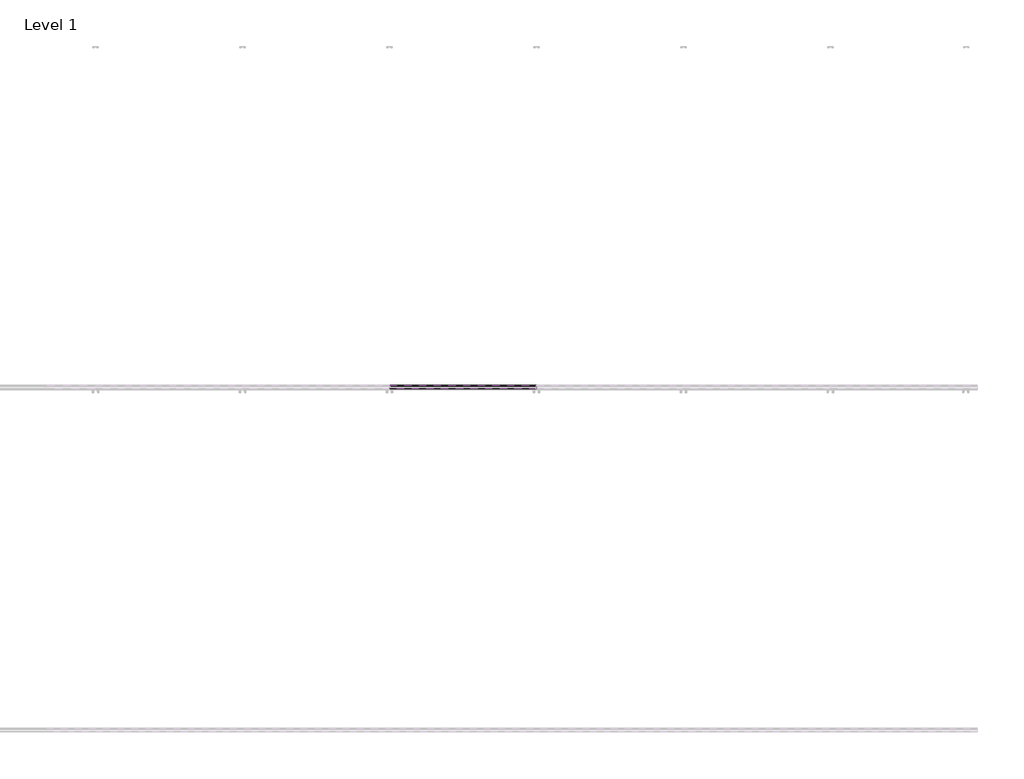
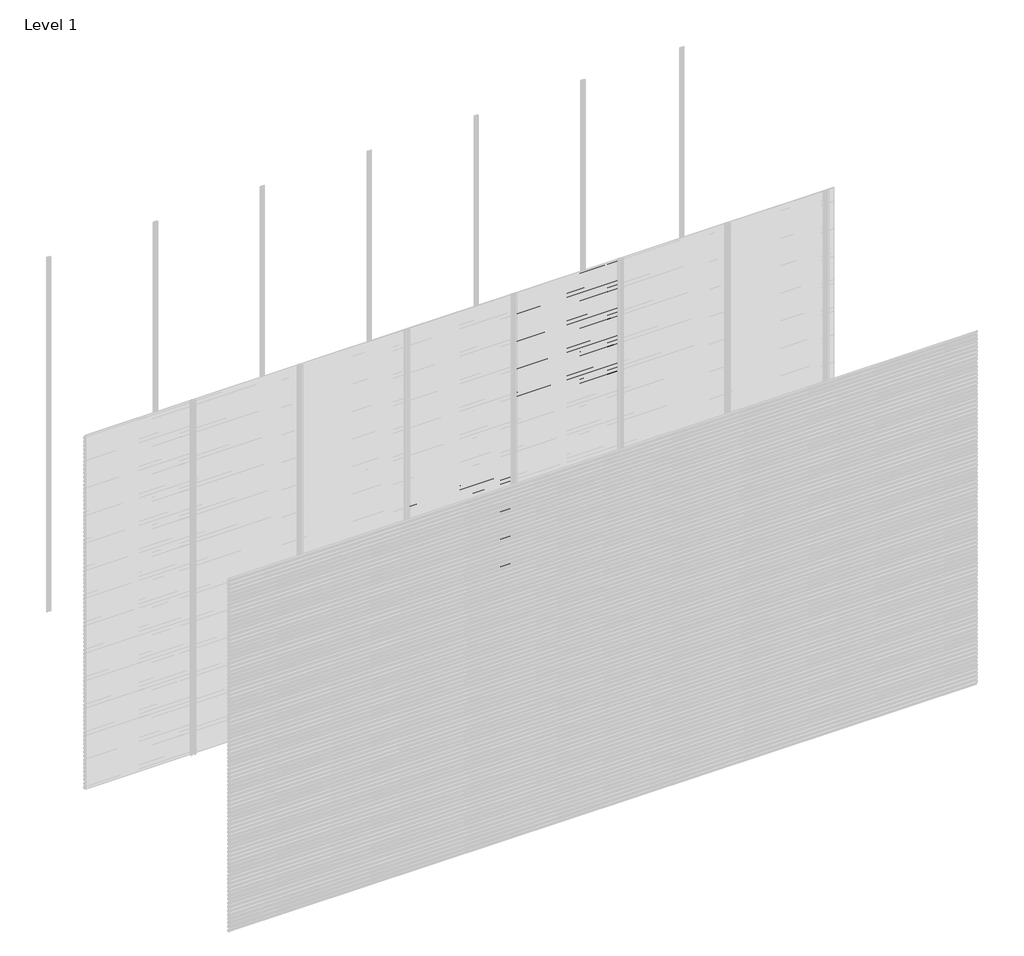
# One storey, part 84 of 96: 77 proxies.
"""IFC4 building model written with IfcOpenShell, lengths in millimetres."""

from ifc_helpers import new_model, si_unit, frame, origin, place, context, project, spatial, polyline, outline, extrude, element, save

model = new_model("IFC4")

# Units and contexts
model_context = context("Model", 3, world=origin())
ifc_project = project(units=[si_unit("LENGTHUNIT", "METRE", prefix="MILLI")], contexts=[model_context])

# Site, building, storey
site = spatial("IfcSite", under=ifc_project)
building = spatial("IfcBuilding", under=site)
storey = spatial("IfcBuildingStorey", under=building, Name="Level 1", Elevation=0.0)

# Proxies
placement = place(None, origin())
element("IfcBuildingElementProxy", 1, Name="Wall Sweeps", at=placement, inside=storey, context=model_context, shape_type="SweptSolid", body=[
    extrude(outline(polyline([(-5977.6, 1573.1655033), (-5977.6, 1558.8779188), (-5982.4114965, 1556.1), (-5982.4114965, 1557.3701706), (-5978.85, 1559.4264016), (-5978.85, 1572.4437382), (-5998.0, 1583.5000799), (-5998.0, 1598.4), (-5996.75, 1598.4), (-5996.75, 1584.2217609), (-5977.6, 1573.1655033)])), frame((2571.4285714, 0.0, 0.0), z_axis=(1.0, 0.0, 0.0), x_axis=(0.0, 1.0, 0.0)), (0.0, 0.0, 1.0), 857.1428571),
])
element("IfcBuildingElementProxy", 2, Name="Wall Sweeps", at=placement, inside=storey, context=model_context, shape_type="SweptSolid", body=[
    extrude(outline(polyline([(-5977.6, 1539.8655033), (-5977.6, 1525.5779188), (-5982.4114965, 1522.8), (-5982.4114965, 1524.0701706), (-5978.85, 1526.1264016), (-5978.85, 1539.1437382), (-5998.0, 1550.2000799), (-5998.0, 1565.1), (-5996.75, 1565.1), (-5996.75, 1550.9217609), (-5977.6, 1539.8655033)])), frame((2571.4285714, 0.0, 0.0), z_axis=(1.0, 0.0, 0.0), x_axis=(0.0, 1.0, 0.0)), (0.0, 0.0, 1.0), 857.1428571),
])
element("IfcBuildingElementProxy", 3, Name="Wall Sweeps", at=placement, inside=storey, context=model_context, shape_type="SweptSolid", body=[
    extrude(outline(polyline([(-5977.6, 1506.5655033), (-5977.6, 1492.2779188), (-5982.4114965, 1489.5), (-5982.4114965, 1490.7701706), (-5978.85, 1492.8264016), (-5978.85, 1505.8437382), (-5998.0, 1516.9000799), (-5998.0, 1531.8), (-5996.75, 1531.8), (-5996.75, 1517.6217609), (-5977.6, 1506.5655033)])), frame((2571.4285714, 0.0, 0.0), z_axis=(1.0, 0.0, 0.0), x_axis=(0.0, 1.0, 0.0)), (0.0, 0.0, 1.0), 857.1428571),
])
element("IfcBuildingElementProxy", 4, Name="Wall Sweeps", at=placement, inside=storey, context=model_context, shape_type="SweptSolid", body=[
    extrude(outline(polyline([(-5977.6, 1473.2655033), (-5977.6, 1458.9779188), (-5982.4114965, 1456.2), (-5982.4114965, 1457.4701706), (-5978.85, 1459.5264016), (-5978.85, 1472.5437382), (-5998.0, 1483.6000799), (-5998.0, 1498.5), (-5996.75, 1498.5), (-5996.75, 1484.3217609), (-5977.6, 1473.2655033)])), frame((2571.4285714, 0.0, 0.0), z_axis=(1.0, 0.0, 0.0), x_axis=(0.0, 1.0, 0.0)), (0.0, 0.0, 1.0), 857.1428571),
])
element("IfcBuildingElementProxy", 5, Name="Wall Sweeps", at=placement, inside=storey, context=model_context, shape_type="SweptSolid", body=[
    extrude(outline(polyline([(-5977.6, 1439.9655033), (-5977.6, 1425.6779188), (-5982.4114965, 1422.9), (-5982.4114965, 1424.1701706), (-5978.85, 1426.2264016), (-5978.85, 1439.2437382), (-5998.0, 1450.3000799), (-5998.0, 1465.2), (-5996.75, 1465.2), (-5996.75, 1451.0217609), (-5977.6, 1439.9655033)])), frame((2571.4285714, 0.0, 0.0), z_axis=(1.0, 0.0, 0.0), x_axis=(0.0, 1.0, 0.0)), (0.0, 0.0, 1.0), 857.1428571),
])
element("IfcBuildingElementProxy", 6, Name="Wall Sweeps", at=placement, inside=storey, context=model_context, shape_type="SweptSolid", body=[
    extrude(outline(polyline([(-5977.6, 1406.6655033), (-5977.6, 1392.3779188), (-5982.4114965, 1389.6), (-5982.4114965, 1390.8701706), (-5978.85, 1392.9264016), (-5978.85, 1405.9437382), (-5998.0, 1417.0000799), (-5998.0, 1431.9), (-5996.75, 1431.9), (-5996.75, 1417.7217609), (-5977.6, 1406.6655033)])), frame((2571.4285714, 0.0, 0.0), z_axis=(1.0, 0.0, 0.0), x_axis=(0.0, 1.0, 0.0)), (0.0, 0.0, 1.0), 857.1428571),
])
element("IfcBuildingElementProxy", 7, Name="Wall Sweeps", at=placement, inside=storey, context=model_context, shape_type="SweptSolid", body=[
    extrude(outline(polyline([(-5977.6, 1373.3655033), (-5977.6, 1359.0779188), (-5982.4114965, 1356.3), (-5982.4114965, 1357.5701706), (-5978.85, 1359.6264016), (-5978.85, 1372.6437382), (-5998.0, 1383.7000799), (-5998.0, 1398.6), (-5996.75, 1398.6), (-5996.75, 1384.4217609), (-5977.6, 1373.3655033)])), frame((2571.4285714, 0.0, 0.0), z_axis=(1.0, 0.0, 0.0), x_axis=(0.0, 1.0, 0.0)), (0.0, 0.0, 1.0), 857.1428571),
])
element("IfcBuildingElementProxy", 8, Name="Wall Sweeps", at=placement, inside=storey, context=model_context, shape_type="SweptSolid", body=[
    extrude(outline(polyline([(-5977.6, 1340.0655033), (-5977.6, 1325.7779188), (-5982.4114965, 1323.0), (-5982.4114965, 1324.2701706), (-5978.85, 1326.3264016), (-5978.85, 1339.3437382), (-5998.0, 1350.4000799), (-5998.0, 1365.3), (-5996.75, 1365.3), (-5996.75, 1351.1217609), (-5977.6, 1340.0655033)])), frame((2571.4285714, 0.0, 0.0), z_axis=(1.0, 0.0, 0.0), x_axis=(0.0, 1.0, 0.0)), (0.0, 0.0, 1.0), 857.1428571),
])
element("IfcBuildingElementProxy", 9, Name="Wall Sweeps", at=placement, inside=storey, context=model_context, shape_type="SweptSolid", body=[
    extrude(outline(polyline([(-5977.6, 1306.7655033), (-5977.6, 1292.4779188), (-5982.4114965, 1289.7), (-5982.4114965, 1290.9701706), (-5978.85, 1293.0264016), (-5978.85, 1306.0437382), (-5998.0, 1317.1000799), (-5998.0, 1332.0), (-5996.75, 1332.0), (-5996.75, 1317.8217609), (-5977.6, 1306.7655033)])), frame((2571.4285714, 0.0, 0.0), z_axis=(1.0, 0.0, 0.0), x_axis=(0.0, 1.0, 0.0)), (0.0, 0.0, 1.0), 857.1428571),
])
element("IfcBuildingElementProxy", 10, Name="Wall Sweeps", at=placement, inside=storey, context=model_context, shape_type="SweptSolid", body=[
    extrude(outline(polyline([(-5977.6, 1273.4655033), (-5977.6, 1259.1779188), (-5982.4114965, 1256.4), (-5982.4114965, 1257.6701706), (-5978.85, 1259.7264016), (-5978.85, 1272.7437382), (-5998.0, 1283.8000799), (-5998.0, 1298.7), (-5996.75, 1298.7), (-5996.75, 1284.5217609), (-5977.6, 1273.4655033)])), frame((2571.4285714, 0.0, 0.0), z_axis=(1.0, 0.0, 0.0), x_axis=(0.0, 1.0, 0.0)), (0.0, 0.0, 1.0), 857.1428571),
])
element("IfcBuildingElementProxy", 11, Name="Wall Sweeps", at=placement, inside=storey, context=model_context, shape_type="SweptSolid", body=[
    extrude(outline(polyline([(-5977.6, 1240.1655033), (-5977.6, 1225.8779188), (-5982.4114965, 1223.1), (-5982.4114965, 1224.3701706), (-5978.85, 1226.4264016), (-5978.85, 1239.4437382), (-5998.0, 1250.5000799), (-5998.0, 1265.4), (-5996.75, 1265.4), (-5996.75, 1251.2217609), (-5977.6, 1240.1655033)])), frame((2571.4285714, 0.0, 0.0), z_axis=(1.0, 0.0, 0.0), x_axis=(0.0, 1.0, 0.0)), (0.0, 0.0, 1.0), 857.1428571),
])
element("IfcBuildingElementProxy", 12, Name="Wall Sweeps", at=placement, inside=storey, context=model_context, shape_type="SweptSolid", body=[
    extrude(outline(polyline([(-5977.6, 1206.8655033), (-5977.6, 1192.5779188), (-5982.4114965, 1189.8), (-5982.4114965, 1191.0701706), (-5978.85, 1193.1264016), (-5978.85, 1206.1437382), (-5998.0, 1217.2000799), (-5998.0, 1232.1), (-5996.75, 1232.1), (-5996.75, 1217.9217609), (-5977.6, 1206.8655033)])), frame((2571.4285714, 0.0, 0.0), z_axis=(1.0, 0.0, 0.0), x_axis=(0.0, 1.0, 0.0)), (0.0, 0.0, 1.0), 857.1428571),
])
element("IfcBuildingElementProxy", 13, Name="Wall Sweeps", at=placement, inside=storey, context=model_context, shape_type="SweptSolid", body=[
    extrude(outline(polyline([(-5977.6, 1173.5655033), (-5977.6, 1159.2779188), (-5982.4114965, 1156.5), (-5982.4114965, 1157.7701706), (-5978.85, 1159.8264016), (-5978.85, 1172.8437382), (-5998.0, 1183.9000799), (-5998.0, 1198.8), (-5996.75, 1198.8), (-5996.75, 1184.6217609), (-5977.6, 1173.5655033)])), frame((2571.4285714, 0.0, 0.0), z_axis=(1.0, 0.0, 0.0), x_axis=(0.0, 1.0, 0.0)), (0.0, 0.0, 1.0), 857.1428571),
])
element("IfcBuildingElementProxy", 14, Name="Wall Sweeps", at=placement, inside=storey, context=model_context, shape_type="SweptSolid", body=[
    extrude(outline(polyline([(-5977.6, 1140.2655033), (-5977.6, 1125.9779188), (-5982.4114965, 1123.2), (-5982.4114965, 1124.4701706), (-5978.85, 1126.5264016), (-5978.85, 1139.5437382), (-5998.0, 1150.6000799), (-5998.0, 1165.5), (-5996.75, 1165.5), (-5996.75, 1151.3217609), (-5977.6, 1140.2655033)])), frame((2571.4285714, 0.0, 0.0), z_axis=(1.0, 0.0, 0.0), x_axis=(0.0, 1.0, 0.0)), (0.0, 0.0, 1.0), 857.1428571),
])
element("IfcBuildingElementProxy", 15, Name="Wall Sweeps", at=placement, inside=storey, context=model_context, shape_type="SweptSolid", body=[
    extrude(outline(polyline([(-5977.6, 1106.9655033), (-5977.6, 1092.6779188), (-5982.4114965, 1089.9), (-5982.4114965, 1091.1701706), (-5978.85, 1093.2264016), (-5978.85, 1106.2437382), (-5998.0, 1117.3000799), (-5998.0, 1132.2), (-5996.75, 1132.2), (-5996.75, 1118.0217609), (-5977.6, 1106.9655033)])), frame((2571.4285714, 0.0, 0.0), z_axis=(1.0, 0.0, 0.0), x_axis=(0.0, 1.0, 0.0)), (0.0, 0.0, 1.0), 857.1428571),
])
element("IfcBuildingElementProxy", 16, Name="Wall Sweeps", at=placement, inside=storey, context=model_context, shape_type="SweptSolid", body=[
    extrude(outline(polyline([(-5977.6, 1073.6655033), (-5977.6, 1059.3779188), (-5982.4114965, 1056.6), (-5982.4114965, 1057.8701706), (-5978.85, 1059.9264016), (-5978.85, 1072.9437382), (-5998.0, 1084.0000799), (-5998.0, 1098.9), (-5996.75, 1098.9), (-5996.75, 1084.7217609), (-5977.6, 1073.6655033)])), frame((2571.4285714, 0.0, 0.0), z_axis=(1.0, 0.0, 0.0), x_axis=(0.0, 1.0, 0.0)), (0.0, 0.0, 1.0), 857.1428571),
])
element("IfcBuildingElementProxy", 17, Name="Wall Sweeps", at=placement, inside=storey, context=model_context, shape_type="SweptSolid", body=[
    extrude(outline(polyline([(-5977.6, 1040.3655033), (-5977.6, 1026.0779188), (-5982.4114965, 1023.3), (-5982.4114965, 1024.5701706), (-5978.85, 1026.6264016), (-5978.85, 1039.6437382), (-5998.0, 1050.7000799), (-5998.0, 1065.6), (-5996.75, 1065.6), (-5996.75, 1051.4217609), (-5977.6, 1040.3655033)])), frame((2571.4285714, 0.0, 0.0), z_axis=(1.0, 0.0, 0.0), x_axis=(0.0, 1.0, 0.0)), (0.0, 0.0, 1.0), 857.1428571),
])
element("IfcBuildingElementProxy", 18, Name="Wall Sweeps", at=placement, inside=storey, context=model_context, shape_type="SweptSolid", body=[
    extrude(outline(polyline([(-5977.6, 1007.0655033), (-5977.6, 992.7779188), (-5982.4114965, 990.0), (-5982.4114965, 991.2701706), (-5978.85, 993.3264016), (-5978.85, 1006.3437382), (-5998.0, 1017.4000799), (-5998.0, 1032.3), (-5996.75, 1032.3), (-5996.75, 1018.1217609), (-5977.6, 1007.0655033)])), frame((2571.4285714, 0.0, 0.0), z_axis=(1.0, 0.0, 0.0), x_axis=(0.0, 1.0, 0.0)), (0.0, 0.0, 1.0), 857.1428571),
])
element("IfcBuildingElementProxy", 19, Name="Wall Sweeps", at=placement, inside=storey, context=model_context, shape_type="SweptSolid", body=[
    extrude(outline(polyline([(-5977.6, 973.7655033), (-5977.6, 959.4779188), (-5982.4114965, 956.7), (-5982.4114965, 957.9701706), (-5978.85, 960.0264016), (-5978.85, 973.0437382), (-5998.0, 984.1000799), (-5998.0, 999.0), (-5996.75, 999.0), (-5996.75, 984.8217609), (-5977.6, 973.7655033)])), frame((2571.4285714, 0.0, 0.0), z_axis=(1.0, 0.0, 0.0), x_axis=(0.0, 1.0, 0.0)), (0.0, 0.0, 1.0), 857.1428571),
])
element("IfcBuildingElementProxy", 20, Name="Wall Sweeps", at=placement, inside=storey, context=model_context, shape_type="SweptSolid", body=[
    extrude(outline(polyline([(-5977.6, 940.4655033), (-5977.6, 926.1779188), (-5982.4114965, 923.4), (-5982.4114965, 924.6701706), (-5978.85, 926.7264016), (-5978.85, 939.7437382), (-5998.0, 950.8000799), (-5998.0, 965.7), (-5996.75, 965.7), (-5996.75, 951.5217609), (-5977.6, 940.4655033)])), frame((2571.4285714, 0.0, 0.0), z_axis=(1.0, 0.0, 0.0), x_axis=(0.0, 1.0, 0.0)), (0.0, 0.0, 1.0), 857.1428571),
])
element("IfcBuildingElementProxy", 21, Name="Wall Sweeps", at=placement, inside=storey, context=model_context, shape_type="SweptSolid", body=[
    extrude(outline(polyline([(-5977.6, 907.1655033), (-5977.6, 892.8779188), (-5982.4114965, 890.1), (-5982.4114965, 891.3701706), (-5978.85, 893.4264016), (-5978.85, 906.4437382), (-5998.0, 917.5000799), (-5998.0, 932.4), (-5996.75, 932.4), (-5996.75, 918.2217609), (-5977.6, 907.1655033)])), frame((2571.4285714, 0.0, 0.0), z_axis=(1.0, 0.0, 0.0), x_axis=(0.0, 1.0, 0.0)), (0.0, 0.0, 1.0), 857.1428571),
])
element("IfcBuildingElementProxy", 22, Name="Wall Sweeps", at=placement, inside=storey, context=model_context, shape_type="SweptSolid", body=[
    extrude(outline(polyline([(-5977.6, 873.8655033), (-5977.6, 859.5779188), (-5982.4114965, 856.8), (-5982.4114965, 858.0701706), (-5978.85, 860.1264016), (-5978.85, 873.1437382), (-5998.0, 884.2000799), (-5998.0, 899.1), (-5996.75, 899.1), (-5996.75, 884.9217609), (-5977.6, 873.8655033)])), frame((2571.4285714, 0.0, 0.0), z_axis=(1.0, 0.0, 0.0), x_axis=(0.0, 1.0, 0.0)), (0.0, 0.0, 1.0), 857.1428571),
])
element("IfcBuildingElementProxy", 23, Name="Wall Sweeps", at=placement, inside=storey, context=model_context, shape_type="SweptSolid", body=[
    extrude(outline(polyline([(-5977.6, 840.5655033), (-5977.6, 826.2779188), (-5982.4114965, 823.5), (-5982.4114965, 824.7701706), (-5978.85, 826.8264016), (-5978.85, 839.8437382), (-5998.0, 850.9000799), (-5998.0, 865.8), (-5996.75, 865.8), (-5996.75, 851.6217609), (-5977.6, 840.5655033)])), frame((2571.4285714, 0.0, 0.0), z_axis=(1.0, 0.0, 0.0), x_axis=(0.0, 1.0, 0.0)), (0.0, 0.0, 1.0), 857.1428571),
])
element("IfcBuildingElementProxy", 24, Name="Wall Sweeps", at=placement, inside=storey, context=model_context, shape_type="SweptSolid", body=[
    extrude(outline(polyline([(-5977.6, 807.2655033), (-5977.6, 792.9779188), (-5982.4114965, 790.2), (-5982.4114965, 791.4701706), (-5978.85, 793.5264016), (-5978.85, 806.5437382), (-5998.0, 817.6000799), (-5998.0, 832.5), (-5996.75, 832.5), (-5996.75, 818.3217609), (-5977.6, 807.2655033)])), frame((2571.4285714, 0.0, 0.0), z_axis=(1.0, 0.0, 0.0), x_axis=(0.0, 1.0, 0.0)), (0.0, 0.0, 1.0), 857.1428571),
])
element("IfcBuildingElementProxy", 25, Name="Wall Sweeps", at=placement, inside=storey, context=model_context, shape_type="SweptSolid", body=[
    extrude(outline(polyline([(-5977.6, 773.9655033), (-5977.6, 759.6779188), (-5982.4114965, 756.9), (-5982.4114965, 758.1701706), (-5978.85, 760.2264016), (-5978.85, 773.2437382), (-5998.0, 784.3000799), (-5998.0, 799.2), (-5996.75, 799.2), (-5996.75, 785.0217609), (-5977.6, 773.9655033)])), frame((2571.4285714, 0.0, 0.0), z_axis=(1.0, 0.0, 0.0), x_axis=(0.0, 1.0, 0.0)), (0.0, 0.0, 1.0), 857.1428571),
])
element("IfcBuildingElementProxy", 26, Name="Wall Sweeps", at=placement, inside=storey, context=model_context, shape_type="SweptSolid", body=[
    extrude(outline(polyline([(-5977.6, 740.6655033), (-5977.6, 726.3779188), (-5982.4114965, 723.6), (-5982.4114965, 724.8701706), (-5978.85, 726.9264016), (-5978.85, 739.9437382), (-5998.0, 751.0000799), (-5998.0, 765.9), (-5996.75, 765.9), (-5996.75, 751.7217609), (-5977.6, 740.6655033)])), frame((2571.4285714, 0.0, 0.0), z_axis=(1.0, 0.0, 0.0), x_axis=(0.0, 1.0, 0.0)), (0.0, 0.0, 1.0), 857.1428571),
])
element("IfcBuildingElementProxy", 27, Name="Wall Sweeps", at=placement, inside=storey, context=model_context, shape_type="SweptSolid", body=[
    extrude(outline(polyline([(-5977.6, 707.3655033), (-5977.6, 693.0779188), (-5982.4114965, 690.3), (-5982.4114965, 691.5701706), (-5978.85, 693.6264016), (-5978.85, 706.6437382), (-5998.0, 717.7000799), (-5998.0, 732.6), (-5996.75, 732.6), (-5996.75, 718.4217609), (-5977.6, 707.3655033)])), frame((2571.4285714, 0.0, 0.0), z_axis=(1.0, 0.0, 0.0), x_axis=(0.0, 1.0, 0.0)), (0.0, 0.0, 1.0), 857.1428571),
])
element("IfcBuildingElementProxy", 28, Name="Wall Sweeps", at=placement, inside=storey, context=model_context, shape_type="SweptSolid", body=[
    extrude(outline(polyline([(-5977.6, 674.0655033), (-5977.6, 659.7779188), (-5982.4114965, 657.0), (-5982.4114965, 658.2701706), (-5978.85, 660.3264016), (-5978.85, 673.3437382), (-5998.0, 684.4000799), (-5998.0, 699.3), (-5996.75, 699.3), (-5996.75, 685.1217609), (-5977.6, 674.0655033)])), frame((2571.4285714, 0.0, 0.0), z_axis=(1.0, 0.0, 0.0), x_axis=(0.0, 1.0, 0.0)), (0.0, 0.0, 1.0), 857.1428571),
])
element("IfcBuildingElementProxy", 29, Name="Wall Sweeps", at=placement, inside=storey, context=model_context, shape_type="SweptSolid", body=[
    extrude(outline(polyline([(-5977.6, 640.7655033), (-5977.6, 626.4779188), (-5982.4114965, 623.7), (-5982.4114965, 624.9701706), (-5978.85, 627.0264016), (-5978.85, 640.0437382), (-5998.0, 651.1000799), (-5998.0, 666.0), (-5996.75, 666.0), (-5996.75, 651.8217609), (-5977.6, 640.7655033)])), frame((2571.4285714, 0.0, 0.0), z_axis=(1.0, 0.0, 0.0), x_axis=(0.0, 1.0, 0.0)), (0.0, 0.0, 1.0), 857.1428571),
])
element("IfcBuildingElementProxy", 30, Name="Wall Sweeps", at=placement, inside=storey, context=model_context, shape_type="SweptSolid", body=[
    extrude(outline(polyline([(-5977.6, 607.4655033), (-5977.6, 593.1779188), (-5982.4114965, 590.4), (-5982.4114965, 591.6701706), (-5978.85, 593.7264016), (-5978.85, 606.7437382), (-5998.0, 617.8000799), (-5998.0, 632.7), (-5996.75, 632.7), (-5996.75, 618.5217609), (-5977.6, 607.4655033)])), frame((2571.4285714, 0.0, 0.0), z_axis=(1.0, 0.0, 0.0), x_axis=(0.0, 1.0, 0.0)), (0.0, 0.0, 1.0), 857.1428571),
])
element("IfcBuildingElementProxy", 31, Name="Wall Sweeps", at=placement, inside=storey, context=model_context, shape_type="SweptSolid", body=[
    extrude(outline(polyline([(-5977.6, 574.1655033), (-5977.6, 559.8779188), (-5982.4114965, 557.1), (-5982.4114965, 558.3701706), (-5978.85, 560.4264016), (-5978.85, 573.4437382), (-5998.0, 584.5000799), (-5998.0, 599.4), (-5996.75, 599.4), (-5996.75, 585.2217609), (-5977.6, 574.1655033)])), frame((2571.4285714, 0.0, 0.0), z_axis=(1.0, 0.0, 0.0), x_axis=(0.0, 1.0, 0.0)), (0.0, 0.0, 1.0), 857.1428571),
])
element("IfcBuildingElementProxy", 32, Name="Wall Sweeps", at=placement, inside=storey, context=model_context, shape_type="SweptSolid", body=[
    extrude(outline(polyline([(-5977.6, 540.8655033), (-5977.6, 526.5779188), (-5982.4114965, 523.8), (-5982.4114965, 525.0701706), (-5978.85, 527.1264016), (-5978.85, 540.1437382), (-5998.0, 551.2000799), (-5998.0, 566.1), (-5996.75, 566.1), (-5996.75, 551.9217609), (-5977.6, 540.8655033)])), frame((2571.4285714, 0.0, 0.0), z_axis=(1.0, 0.0, 0.0), x_axis=(0.0, 1.0, 0.0)), (0.0, 0.0, 1.0), 857.1428571),
])
element("IfcBuildingElementProxy", 33, Name="Wall Sweeps", at=placement, inside=storey, context=model_context, shape_type="SweptSolid", body=[
    extrude(outline(polyline([(-5977.6, 507.5655033), (-5977.6, 493.2779188), (-5982.4114965, 490.5), (-5982.4114965, 491.7701706), (-5978.85, 493.8264016), (-5978.85, 506.8437382), (-5998.0, 517.9000799), (-5998.0, 532.8), (-5996.75, 532.8), (-5996.75, 518.6217609), (-5977.6, 507.5655033)])), frame((2571.4285714, 0.0, 0.0), z_axis=(1.0, 0.0, 0.0), x_axis=(0.0, 1.0, 0.0)), (0.0, 0.0, 1.0), 857.1428571),
])
element("IfcBuildingElementProxy", 34, Name="Wall Sweeps", at=placement, inside=storey, context=model_context, shape_type="SweptSolid", body=[
    extrude(outline(polyline([(-5977.6, 474.2655033), (-5977.6, 459.9779188), (-5982.4114965, 457.2), (-5982.4114965, 458.4701706), (-5978.85, 460.5264016), (-5978.85, 473.5437382), (-5998.0, 484.6000799), (-5998.0, 499.5), (-5996.75, 499.5), (-5996.75, 485.3217609), (-5977.6, 474.2655033)])), frame((2571.4285714, 0.0, 0.0), z_axis=(1.0, 0.0, 0.0), x_axis=(0.0, 1.0, 0.0)), (0.0, 0.0, 1.0), 857.1428571),
])
element("IfcBuildingElementProxy", 35, Name="Wall Sweeps", at=placement, inside=storey, context=model_context, shape_type="SweptSolid", body=[
    extrude(outline(polyline([(-5977.6, 440.9655033), (-5977.6, 426.6779188), (-5982.4114965, 423.9), (-5982.4114965, 425.1701706), (-5978.85, 427.2264016), (-5978.85, 440.2437382), (-5998.0, 451.3000799), (-5998.0, 466.2), (-5996.75, 466.2), (-5996.75, 452.0217609), (-5977.6, 440.9655033)])), frame((2571.4285714, 0.0, 0.0), z_axis=(1.0, 0.0, 0.0), x_axis=(0.0, 1.0, 0.0)), (0.0, 0.0, 1.0), 857.1428571),
])
element("IfcBuildingElementProxy", 36, Name="Wall Sweeps", at=placement, inside=storey, context=model_context, shape_type="SweptSolid", body=[
    extrude(outline(polyline([(-5977.6, 407.6655033), (-5977.6, 393.3779188), (-5982.4114965, 390.6), (-5982.4114965, 391.8701706), (-5978.85, 393.9264016), (-5978.85, 406.9437382), (-5998.0, 418.0000799), (-5998.0, 432.9), (-5996.75, 432.9), (-5996.75, 418.7217609), (-5977.6, 407.6655033)])), frame((2571.4285714, 0.0, 0.0), z_axis=(1.0, 0.0, 0.0), x_axis=(0.0, 1.0, 0.0)), (0.0, 0.0, 1.0), 857.1428571),
])
element("IfcBuildingElementProxy", 37, Name="Wall Sweeps", at=placement, inside=storey, context=model_context, shape_type="SweptSolid", body=[
    extrude(outline(polyline([(-5977.6, 374.3655033), (-5977.6, 360.0779188), (-5982.4114965, 357.3), (-5982.4114965, 358.5701706), (-5978.85, 360.6264016), (-5978.85, 373.6437382), (-5998.0, 384.7000799), (-5998.0, 399.6), (-5996.75, 399.6), (-5996.75, 385.4217609), (-5977.6, 374.3655033)])), frame((2571.4285714, 0.0, 0.0), z_axis=(1.0, 0.0, 0.0), x_axis=(0.0, 1.0, 0.0)), (0.0, 0.0, 1.0), 857.1428571),
])
element("IfcBuildingElementProxy", 38, Name="Wall Sweeps", at=placement, inside=storey, context=model_context, shape_type="SweptSolid", body=[
    extrude(outline(polyline([(-5977.6, 341.0655033), (-5977.6, 326.7779188), (-5982.4114965, 324.0), (-5982.4114965, 325.2701706), (-5978.85, 327.3264016), (-5978.85, 340.3437382), (-5998.0, 351.4000799), (-5998.0, 366.3), (-5996.75, 366.3), (-5996.75, 352.1217609), (-5977.6, 341.0655033)])), frame((2571.4285714, 0.0, 0.0), z_axis=(1.0, 0.0, 0.0), x_axis=(0.0, 1.0, 0.0)), (0.0, 0.0, 1.0), 857.1428571),
])
element("IfcBuildingElementProxy", 39, Name="Wall Sweeps", at=placement, inside=storey, context=model_context, shape_type="SweptSolid", body=[
    extrude(outline(polyline([(-5977.6, 307.7655033), (-5977.6, 293.4779188), (-5982.4114965, 290.7), (-5982.4114965, 291.9701706), (-5978.85, 294.0264016), (-5978.85, 307.0437382), (-5998.0, 318.1000799), (-5998.0, 333.0), (-5996.75, 333.0), (-5996.75, 318.8217609), (-5977.6, 307.7655033)])), frame((2571.4285714, 0.0, 0.0), z_axis=(1.0, 0.0, 0.0), x_axis=(0.0, 1.0, 0.0)), (0.0, 0.0, 1.0), 857.1428571),
])
element("IfcBuildingElementProxy", 40, Name="Wall Sweeps", at=placement, inside=storey, context=model_context, shape_type="SweptSolid", body=[
    extrude(outline(polyline([(-5977.6, 274.4655033), (-5977.6, 260.1779188), (-5982.4114965, 257.4), (-5982.4114965, 258.6701706), (-5978.85, 260.7264016), (-5978.85, 273.7437382), (-5998.0, 284.8000799), (-5998.0, 299.7), (-5996.75, 299.7), (-5996.75, 285.5217609), (-5977.6, 274.4655033)])), frame((2571.4285714, 0.0, 0.0), z_axis=(1.0, 0.0, 0.0), x_axis=(0.0, 1.0, 0.0)), (0.0, 0.0, 1.0), 857.1428571),
])
element("IfcBuildingElementProxy", 41, Name="Wall Sweeps", at=placement, inside=storey, context=model_context, shape_type="SweptSolid", body=[
    extrude(outline(polyline([(-5977.6, 241.1655033), (-5977.6, 226.8779188), (-5982.4114965, 224.1), (-5982.4114965, 225.3701706), (-5978.85, 227.4264016), (-5978.85, 240.4437382), (-5998.0, 251.5000799), (-5998.0, 266.4), (-5996.75, 266.4), (-5996.75, 252.2217609), (-5977.6, 241.1655033)])), frame((2571.4285714, 0.0, 0.0), z_axis=(1.0, 0.0, 0.0), x_axis=(0.0, 1.0, 0.0)), (0.0, 0.0, 1.0), 857.1428571),
])
element("IfcBuildingElementProxy", 42, Name="Wall Sweeps", at=placement, inside=storey, context=model_context, shape_type="SweptSolid", body=[
    extrude(outline(polyline([(-5977.6, 207.8655033), (-5977.6, 193.5779188), (-5982.4114965, 190.8), (-5982.4114965, 192.0701706), (-5978.85, 194.1264016), (-5978.85, 207.1437382), (-5998.0, 218.2000799), (-5998.0, 233.1), (-5996.75, 233.1), (-5996.75, 218.9217609), (-5977.6, 207.8655033)])), frame((2571.4285714, 0.0, 0.0), z_axis=(1.0, 0.0, 0.0), x_axis=(0.0, 1.0, 0.0)), (0.0, 0.0, 1.0), 857.1428571),
])
element("IfcBuildingElementProxy", 43, Name="Wall Sweeps", at=placement, inside=storey, context=model_context, shape_type="SweptSolid", body=[
    extrude(outline(polyline([(-5977.6, 174.5655033), (-5977.6, 160.2779188), (-5982.4114965, 157.5), (-5982.4114965, 158.7701706), (-5978.85, 160.8264016), (-5978.85, 173.8437382), (-5998.0, 184.9000799), (-5998.0, 199.8), (-5996.75, 199.8), (-5996.75, 185.6217609), (-5977.6, 174.5655033)])), frame((2571.4285714, 0.0, 0.0), z_axis=(1.0, 0.0, 0.0), x_axis=(0.0, 1.0, 0.0)), (0.0, 0.0, 1.0), 857.1428571),
])
element("IfcBuildingElementProxy", 44, Name="Wall Sweeps", at=placement, inside=storey, context=model_context, shape_type="SweptSolid", body=[
    extrude(outline(polyline([(-5977.6, 141.2655033), (-5977.6, 126.9779188), (-5982.4114965, 124.2), (-5982.4114965, 125.4701706), (-5978.85, 127.5264016), (-5978.85, 140.5437382), (-5998.0, 151.6000799), (-5998.0, 166.5), (-5996.75, 166.5), (-5996.75, 152.3217609), (-5977.6, 141.2655033)])), frame((2571.4285714, 0.0, 0.0), z_axis=(1.0, 0.0, 0.0), x_axis=(0.0, 1.0, 0.0)), (0.0, 0.0, 1.0), 857.1428571),
])
element("IfcBuildingElementProxy", 45, Name="Wall Sweeps", at=placement, inside=storey, context=model_context, shape_type="SweptSolid", body=[
    extrude(outline(polyline([(-5977.6, 107.9655033), (-5977.6, 93.6779188), (-5982.4114965, 90.9), (-5982.4114965, 92.1701706), (-5978.85, 94.2264016), (-5978.85, 107.2437382), (-5998.0, 118.3000799), (-5998.0, 133.2), (-5996.75, 133.2), (-5996.75, 119.0217609), (-5977.6, 107.9655033)])), frame((2571.4285714, 0.0, 0.0), z_axis=(1.0, 0.0, 0.0), x_axis=(0.0, 1.0, 0.0)), (0.0, 0.0, 1.0), 857.1428571),
])
element("IfcBuildingElementProxy", 46, Name="Wall Sweeps", at=placement, inside=storey, context=model_context, shape_type="SweptSolid", body=[
    extrude(outline(polyline([(-5977.6, 74.6655033), (-5977.6, 60.3779188), (-5982.4114965, 57.6), (-5982.4114965, 58.8701706), (-5978.85, 60.9264016), (-5978.85, 73.9437382), (-5998.0, 85.0000799), (-5998.0, 99.9), (-5996.75, 99.9), (-5996.75, 85.7217609), (-5977.6, 74.6655033)])), frame((2571.4285714, 0.0, 0.0), z_axis=(1.0, 0.0, 0.0), x_axis=(0.0, 1.0, 0.0)), (0.0, 0.0, 1.0), 857.1428571),
])
element("IfcBuildingElementProxy", 47, Name="Wall Sweeps", at=placement, inside=storey, context=model_context, shape_type="SweptSolid", body=[
    extrude(outline(polyline([(-5977.6, 41.3655033), (-5977.6, 27.0779188), (-5982.4114965, 24.3), (-5982.4114965, 25.5701706), (-5978.85, 27.6264016), (-5978.85, 40.6437382), (-5998.0, 51.7000799), (-5998.0, 66.6), (-5996.75, 66.6), (-5996.75, 52.4217609), (-5977.6, 41.3655033)])), frame((2571.4285714, 0.0, 0.0), z_axis=(1.0, 0.0, 0.0), x_axis=(0.0, 1.0, 0.0)), (0.0, 0.0, 1.0), 857.1428571),
])
element("IfcBuildingElementProxy", 48, Name="Wall Sweeps", at=placement, inside=storey, context=model_context, shape_type="SweptSolid", body=[
    extrude(outline(polyline([(-5977.6, 8.0655033), (-5977.6, -6.2220812), (-5982.4114965, -9.0), (-5982.4114965, -7.7298294), (-5978.85, -5.6735984), (-5978.85, 7.3437382), (-5998.0, 18.4000799), (-5998.0, 33.3), (-5996.75, 33.3), (-5996.75, 19.1217609), (-5977.6, 8.0655033)])), frame((2571.4285714, 0.0, 0.0), z_axis=(1.0, 0.0, 0.0), x_axis=(0.0, 1.0, 0.0)), (0.0, 0.0, 1.0), 857.1428571),
])
element("IfcBuildingElementProxy", 49, Name="Wall Sweeps", at=placement, inside=storey, context=model_context, shape_type="SweptSolid", body=[
    extrude(outline(polyline([(-5977.6, 2971.7655033), (-5977.6, 2957.4779188), (-5982.4114965, 2954.7), (-5982.4114965, 2955.9701706), (-5978.85, 2958.0264016), (-5978.85, 2971.0437382), (-5998.0, 2982.1000799), (-5998.0, 2997.0), (-5996.75, 2997.0), (-5996.75, 2982.8217609), (-5977.6, 2971.7655033)])), frame((3428.5714286, 0.0, 0.0), z_axis=(1.0, 0.0, 0.0), x_axis=(0.0, 1.0, 0.0)), (0.0, 0.0, 1.0), 857.1428571),
])
element("IfcBuildingElementProxy", 50, Name="Wall Sweeps", at=placement, inside=storey, context=model_context, shape_type="SweptSolid", body=[
    extrude(outline(polyline([(-5977.6, 2938.4655033), (-5977.6, 2924.1779188), (-5982.4114965, 2921.4), (-5982.4114965, 2922.6701706), (-5978.85, 2924.7264016), (-5978.85, 2937.7437382), (-5998.0, 2948.8000799), (-5998.0, 2963.7), (-5996.75, 2963.7), (-5996.75, 2949.5217609), (-5977.6, 2938.4655033)])), frame((3428.5714286, 0.0, 0.0), z_axis=(1.0, 0.0, 0.0), x_axis=(0.0, 1.0, 0.0)), (0.0, 0.0, 1.0), 857.1428571),
])
element("IfcBuildingElementProxy", 51, Name="Wall Sweeps", at=placement, inside=storey, context=model_context, shape_type="SweptSolid", body=[
    extrude(outline(polyline([(-5977.6, 2905.1655033), (-5977.6, 2890.8779188), (-5982.4114965, 2888.1), (-5982.4114965, 2889.3701706), (-5978.85, 2891.4264016), (-5978.85, 2904.4437382), (-5998.0, 2915.5000799), (-5998.0, 2930.4), (-5996.75, 2930.4), (-5996.75, 2916.2217609), (-5977.6, 2905.1655033)])), frame((3428.5714286, 0.0, 0.0), z_axis=(1.0, 0.0, 0.0), x_axis=(0.0, 1.0, 0.0)), (0.0, 0.0, 1.0), 857.1428571),
])
element("IfcBuildingElementProxy", 52, Name="Wall Sweeps", at=placement, inside=storey, context=model_context, shape_type="SweptSolid", body=[
    extrude(outline(polyline([(-5977.6, 2871.8655033), (-5977.6, 2857.5779188), (-5982.4114965, 2854.8), (-5982.4114965, 2856.0701706), (-5978.85, 2858.1264016), (-5978.85, 2871.1437382), (-5998.0, 2882.2000799), (-5998.0, 2897.1), (-5996.75, 2897.1), (-5996.75, 2882.9217609), (-5977.6, 2871.8655033)])), frame((3428.5714286, 0.0, 0.0), z_axis=(1.0, 0.0, 0.0), x_axis=(0.0, 1.0, 0.0)), (0.0, 0.0, 1.0), 857.1428571),
])
element("IfcBuildingElementProxy", 53, Name="Wall Sweeps", at=placement, inside=storey, context=model_context, shape_type="SweptSolid", body=[
    extrude(outline(polyline([(-5977.6, 2838.5655033), (-5977.6, 2824.2779188), (-5982.4114965, 2821.5), (-5982.4114965, 2822.7701706), (-5978.85, 2824.8264016), (-5978.85, 2837.8437382), (-5998.0, 2848.9000799), (-5998.0, 2863.8), (-5996.75, 2863.8), (-5996.75, 2849.6217609), (-5977.6, 2838.5655033)])), frame((3428.5714286, 0.0, 0.0), z_axis=(1.0, 0.0, 0.0), x_axis=(0.0, 1.0, 0.0)), (0.0, 0.0, 1.0), 857.1428571),
])
element("IfcBuildingElementProxy", 54, Name="Wall Sweeps", at=placement, inside=storey, context=model_context, shape_type="SweptSolid", body=[
    extrude(outline(polyline([(-5977.6, 2805.2655033), (-5977.6, 2790.9779188), (-5982.4114965, 2788.2), (-5982.4114965, 2789.4701706), (-5978.85, 2791.5264016), (-5978.85, 2804.5437382), (-5998.0, 2815.6000799), (-5998.0, 2830.5), (-5996.75, 2830.5), (-5996.75, 2816.3217609), (-5977.6, 2805.2655033)])), frame((3428.5714286, 0.0, 0.0), z_axis=(1.0, 0.0, 0.0), x_axis=(0.0, 1.0, 0.0)), (0.0, 0.0, 1.0), 857.1428571),
])
element("IfcBuildingElementProxy", 55, Name="Wall Sweeps", at=placement, inside=storey, context=model_context, shape_type="SweptSolid", body=[
    extrude(outline(polyline([(-5977.6, 2771.9655033), (-5977.6, 2757.6779188), (-5982.4114965, 2754.9), (-5982.4114965, 2756.1701706), (-5978.85, 2758.2264016), (-5978.85, 2771.2437382), (-5998.0, 2782.3000799), (-5998.0, 2797.2), (-5996.75, 2797.2), (-5996.75, 2783.0217609), (-5977.6, 2771.9655033)])), frame((3428.5714286, 0.0, 0.0), z_axis=(1.0, 0.0, 0.0), x_axis=(0.0, 1.0, 0.0)), (0.0, 0.0, 1.0), 857.1428571),
])
element("IfcBuildingElementProxy", 56, Name="Wall Sweeps", at=placement, inside=storey, context=model_context, shape_type="SweptSolid", body=[
    extrude(outline(polyline([(-5977.6, 2738.6655033), (-5977.6, 2724.3779188), (-5982.4114965, 2721.6), (-5982.4114965, 2722.8701706), (-5978.85, 2724.9264016), (-5978.85, 2737.9437382), (-5998.0, 2749.0000799), (-5998.0, 2763.9), (-5996.75, 2763.9), (-5996.75, 2749.7217609), (-5977.6, 2738.6655033)])), frame((3428.5714286, 0.0, 0.0), z_axis=(1.0, 0.0, 0.0), x_axis=(0.0, 1.0, 0.0)), (0.0, 0.0, 1.0), 857.1428571),
])
element("IfcBuildingElementProxy", 57, Name="Wall Sweeps", at=placement, inside=storey, context=model_context, shape_type="SweptSolid", body=[
    extrude(outline(polyline([(-5977.6, 2705.3655033), (-5977.6, 2691.0779188), (-5982.4114965, 2688.3), (-5982.4114965, 2689.5701706), (-5978.85, 2691.6264016), (-5978.85, 2704.6437382), (-5998.0, 2715.7000799), (-5998.0, 2730.6), (-5996.75, 2730.6), (-5996.75, 2716.4217609), (-5977.6, 2705.3655033)])), frame((3428.5714286, 0.0, 0.0), z_axis=(1.0, 0.0, 0.0), x_axis=(0.0, 1.0, 0.0)), (0.0, 0.0, 1.0), 857.1428571),
])
element("IfcBuildingElementProxy", 58, Name="Wall Sweeps", at=placement, inside=storey, context=model_context, shape_type="SweptSolid", body=[
    extrude(outline(polyline([(-5977.6, 2672.0655033), (-5977.6, 2657.7779188), (-5982.4114965, 2655.0), (-5982.4114965, 2656.2701706), (-5978.85, 2658.3264016), (-5978.85, 2671.3437382), (-5998.0, 2682.4000799), (-5998.0, 2697.3), (-5996.75, 2697.3), (-5996.75, 2683.1217609), (-5977.6, 2672.0655033)])), frame((3428.5714286, 0.0, 0.0), z_axis=(1.0, 0.0, 0.0), x_axis=(0.0, 1.0, 0.0)), (0.0, 0.0, 1.0), 857.1428571),
])
element("IfcBuildingElementProxy", 59, Name="Wall Sweeps", at=placement, inside=storey, context=model_context, shape_type="SweptSolid", body=[
    extrude(outline(polyline([(-5977.6, 2638.7655033), (-5977.6, 2624.4779188), (-5982.4114965, 2621.7), (-5982.4114965, 2622.9701706), (-5978.85, 2625.0264016), (-5978.85, 2638.0437382), (-5998.0, 2649.1000799), (-5998.0, 2664.0), (-5996.75, 2664.0), (-5996.75, 2649.8217609), (-5977.6, 2638.7655033)])), frame((3428.5714286, 0.0, 0.0), z_axis=(1.0, 0.0, 0.0), x_axis=(0.0, 1.0, 0.0)), (0.0, 0.0, 1.0), 857.1428571),
])
element("IfcBuildingElementProxy", 60, Name="Wall Sweeps", at=placement, inside=storey, context=model_context, shape_type="SweptSolid", body=[
    extrude(outline(polyline([(-5977.6, 2605.4655033), (-5977.6, 2591.1779188), (-5982.4114965, 2588.4), (-5982.4114965, 2589.6701706), (-5978.85, 2591.7264016), (-5978.85, 2604.7437382), (-5998.0, 2615.8000799), (-5998.0, 2630.7), (-5996.75, 2630.7), (-5996.75, 2616.5217609), (-5977.6, 2605.4655033)])), frame((3428.5714286, 0.0, 0.0), z_axis=(1.0, 0.0, 0.0), x_axis=(0.0, 1.0, 0.0)), (0.0, 0.0, 1.0), 857.1428571),
])
element("IfcBuildingElementProxy", 61, Name="Wall Sweeps", at=placement, inside=storey, context=model_context, shape_type="SweptSolid", body=[
    extrude(outline(polyline([(-5977.6, 2572.1655033), (-5977.6, 2557.8779188), (-5982.4114965, 2555.1), (-5982.4114965, 2556.3701706), (-5978.85, 2558.4264016), (-5978.85, 2571.4437382), (-5998.0, 2582.5000799), (-5998.0, 2597.4), (-5996.75, 2597.4), (-5996.75, 2583.2217609), (-5977.6, 2572.1655033)])), frame((3428.5714286, 0.0, 0.0), z_axis=(1.0, 0.0, 0.0), x_axis=(0.0, 1.0, 0.0)), (0.0, 0.0, 1.0), 857.1428571),
])
element("IfcBuildingElementProxy", 62, Name="Wall Sweeps", at=placement, inside=storey, context=model_context, shape_type="SweptSolid", body=[
    extrude(outline(polyline([(-5977.6, 2538.8655033), (-5977.6, 2524.5779188), (-5982.4114965, 2521.8), (-5982.4114965, 2523.0701706), (-5978.85, 2525.1264016), (-5978.85, 2538.1437382), (-5998.0, 2549.2000799), (-5998.0, 2564.1), (-5996.75, 2564.1), (-5996.75, 2549.9217609), (-5977.6, 2538.8655033)])), frame((3428.5714286, 0.0, 0.0), z_axis=(1.0, 0.0, 0.0), x_axis=(0.0, 1.0, 0.0)), (0.0, 0.0, 1.0), 857.1428571),
])
element("IfcBuildingElementProxy", 63, Name="Wall Sweeps", at=placement, inside=storey, context=model_context, shape_type="SweptSolid", body=[
    extrude(outline(polyline([(-5977.6, 2505.5655033), (-5977.6, 2491.2779188), (-5982.4114965, 2488.5), (-5982.4114965, 2489.7701706), (-5978.85, 2491.8264016), (-5978.85, 2504.8437382), (-5998.0, 2515.9000799), (-5998.0, 2530.8), (-5996.75, 2530.8), (-5996.75, 2516.6217609), (-5977.6, 2505.5655033)])), frame((3428.5714286, 0.0, 0.0), z_axis=(1.0, 0.0, 0.0), x_axis=(0.0, 1.0, 0.0)), (0.0, 0.0, 1.0), 857.1428571),
])
element("IfcBuildingElementProxy", 64, Name="Wall Sweeps", at=placement, inside=storey, context=model_context, shape_type="SweptSolid", body=[
    extrude(outline(polyline([(-5977.6, 2472.2655033), (-5977.6, 2457.9779188), (-5982.4114965, 2455.2), (-5982.4114965, 2456.4701706), (-5978.85, 2458.5264016), (-5978.85, 2471.5437382), (-5998.0, 2482.6000799), (-5998.0, 2497.5), (-5996.75, 2497.5), (-5996.75, 2483.3217609), (-5977.6, 2472.2655033)])), frame((3428.5714286, 0.0, 0.0), z_axis=(1.0, 0.0, 0.0), x_axis=(0.0, 1.0, 0.0)), (0.0, 0.0, 1.0), 857.1428571),
])
element("IfcBuildingElementProxy", 65, Name="Wall Sweeps", at=placement, inside=storey, context=model_context, shape_type="SweptSolid", body=[
    extrude(outline(polyline([(-5977.6, 2438.9655033), (-5977.6, 2424.6779188), (-5982.4114965, 2421.9), (-5982.4114965, 2423.1701706), (-5978.85, 2425.2264016), (-5978.85, 2438.2437382), (-5998.0, 2449.3000799), (-5998.0, 2464.2), (-5996.75, 2464.2), (-5996.75, 2450.0217609), (-5977.6, 2438.9655033)])), frame((3428.5714286, 0.0, 0.0), z_axis=(1.0, 0.0, 0.0), x_axis=(0.0, 1.0, 0.0)), (0.0, 0.0, 1.0), 857.1428571),
])
element("IfcBuildingElementProxy", 66, Name="Wall Sweeps", at=placement, inside=storey, context=model_context, shape_type="SweptSolid", body=[
    extrude(outline(polyline([(-5977.6, 2405.6655033), (-5977.6, 2391.3779188), (-5982.4114965, 2388.6), (-5982.4114965, 2389.8701706), (-5978.85, 2391.9264016), (-5978.85, 2404.9437382), (-5998.0, 2416.0000799), (-5998.0, 2430.9), (-5996.75, 2430.9), (-5996.75, 2416.7217609), (-5977.6, 2405.6655033)])), frame((3428.5714286, 0.0, 0.0), z_axis=(1.0, 0.0, 0.0), x_axis=(0.0, 1.0, 0.0)), (0.0, 0.0, 1.0), 857.1428571),
])
element("IfcBuildingElementProxy", 67, Name="Wall Sweeps", at=placement, inside=storey, context=model_context, shape_type="SweptSolid", body=[
    extrude(outline(polyline([(-5977.6, 2372.3655033), (-5977.6, 2358.0779188), (-5982.4114965, 2355.3), (-5982.4114965, 2356.5701706), (-5978.85, 2358.6264016), (-5978.85, 2371.6437382), (-5998.0, 2382.7000799), (-5998.0, 2397.6), (-5996.75, 2397.6), (-5996.75, 2383.4217609), (-5977.6, 2372.3655033)])), frame((3428.5714286, 0.0, 0.0), z_axis=(1.0, 0.0, 0.0), x_axis=(0.0, 1.0, 0.0)), (0.0, 0.0, 1.0), 857.1428571),
])
element("IfcBuildingElementProxy", 68, Name="Wall Sweeps", at=placement, inside=storey, context=model_context, shape_type="SweptSolid", body=[
    extrude(outline(polyline([(-5977.6, 2339.0655033), (-5977.6, 2324.7779188), (-5982.4114965, 2322.0), (-5982.4114965, 2323.2701706), (-5978.85, 2325.3264016), (-5978.85, 2338.3437382), (-5998.0, 2349.4000799), (-5998.0, 2364.3), (-5996.75, 2364.3), (-5996.75, 2350.1217609), (-5977.6, 2339.0655033)])), frame((3428.5714286, 0.0, 0.0), z_axis=(1.0, 0.0, 0.0), x_axis=(0.0, 1.0, 0.0)), (0.0, 0.0, 1.0), 857.1428571),
])
element("IfcBuildingElementProxy", 69, Name="Wall Sweeps", at=placement, inside=storey, context=model_context, shape_type="SweptSolid", body=[
    extrude(outline(polyline([(-5977.6, 2305.7655033), (-5977.6, 2291.4779188), (-5982.4114965, 2288.7), (-5982.4114965, 2289.9701706), (-5978.85, 2292.0264016), (-5978.85, 2305.0437382), (-5998.0, 2316.1000799), (-5998.0, 2331.0), (-5996.75, 2331.0), (-5996.75, 2316.8217609), (-5977.6, 2305.7655033)])), frame((3428.5714286, 0.0, 0.0), z_axis=(1.0, 0.0, 0.0), x_axis=(0.0, 1.0, 0.0)), (0.0, 0.0, 1.0), 857.1428571),
])
element("IfcBuildingElementProxy", 70, Name="Wall Sweeps", at=placement, inside=storey, context=model_context, shape_type="SweptSolid", body=[
    extrude(outline(polyline([(-5977.6, 2272.4655033), (-5977.6, 2258.1779188), (-5982.4114965, 2255.4), (-5982.4114965, 2256.6701706), (-5978.85, 2258.7264016), (-5978.85, 2271.7437382), (-5998.0, 2282.8000799), (-5998.0, 2297.7), (-5996.75, 2297.7), (-5996.75, 2283.5217609), (-5977.6, 2272.4655033)])), frame((3428.5714286, 0.0, 0.0), z_axis=(1.0, 0.0, 0.0), x_axis=(0.0, 1.0, 0.0)), (0.0, 0.0, 1.0), 857.1428571),
])
element("IfcBuildingElementProxy", 71, Name="Wall Sweeps", at=placement, inside=storey, context=model_context, shape_type="SweptSolid", body=[
    extrude(outline(polyline([(-5977.6, 2239.1655033), (-5977.6, 2224.8779188), (-5982.4114965, 2222.1), (-5982.4114965, 2223.3701706), (-5978.85, 2225.4264016), (-5978.85, 2238.4437382), (-5998.0, 2249.5000799), (-5998.0, 2264.4), (-5996.75, 2264.4), (-5996.75, 2250.2217609), (-5977.6, 2239.1655033)])), frame((3428.5714286, 0.0, 0.0), z_axis=(1.0, 0.0, 0.0), x_axis=(0.0, 1.0, 0.0)), (0.0, 0.0, 1.0), 857.1428571),
])
element("IfcBuildingElementProxy", 72, Name="Wall Sweeps", at=placement, inside=storey, context=model_context, shape_type="SweptSolid", body=[
    extrude(outline(polyline([(-5977.6, 2205.8655033), (-5977.6, 2191.5779188), (-5982.4114965, 2188.8), (-5982.4114965, 2190.0701706), (-5978.85, 2192.1264016), (-5978.85, 2205.1437382), (-5998.0, 2216.2000799), (-5998.0, 2231.1), (-5996.75, 2231.1), (-5996.75, 2216.9217609), (-5977.6, 2205.8655033)])), frame((3428.5714286, 0.0, 0.0), z_axis=(1.0, 0.0, 0.0), x_axis=(0.0, 1.0, 0.0)), (0.0, 0.0, 1.0), 857.1428571),
])
element("IfcBuildingElementProxy", 73, Name="Wall Sweeps", at=placement, inside=storey, context=model_context, shape_type="SweptSolid", body=[
    extrude(outline(polyline([(-5977.6, 2172.5655033), (-5977.6, 2158.2779188), (-5982.4114965, 2155.5), (-5982.4114965, 2156.7701706), (-5978.85, 2158.8264016), (-5978.85, 2171.8437382), (-5998.0, 2182.9000799), (-5998.0, 2197.8), (-5996.75, 2197.8), (-5996.75, 2183.6217609), (-5977.6, 2172.5655033)])), frame((3428.5714286, 0.0, 0.0), z_axis=(1.0, 0.0, 0.0), x_axis=(0.0, 1.0, 0.0)), (0.0, 0.0, 1.0), 857.1428571),
])
element("IfcBuildingElementProxy", 74, Name="Wall Sweeps", at=placement, inside=storey, context=model_context, shape_type="SweptSolid", body=[
    extrude(outline(polyline([(-5977.6, 2139.2655033), (-5977.6, 2124.9779188), (-5982.4114965, 2122.2), (-5982.4114965, 2123.4701706), (-5978.85, 2125.5264016), (-5978.85, 2138.5437382), (-5998.0, 2149.6000799), (-5998.0, 2164.5), (-5996.75, 2164.5), (-5996.75, 2150.3217609), (-5977.6, 2139.2655033)])), frame((3428.5714286, 0.0, 0.0), z_axis=(1.0, 0.0, 0.0), x_axis=(0.0, 1.0, 0.0)), (0.0, 0.0, 1.0), 857.1428571),
])
element("IfcBuildingElementProxy", 75, Name="Wall Sweeps", at=placement, inside=storey, context=model_context, shape_type="SweptSolid", body=[
    extrude(outline(polyline([(-5977.6, 2105.9655033), (-5977.6, 2091.6779188), (-5982.4114965, 2088.9), (-5982.4114965, 2090.1701706), (-5978.85, 2092.2264016), (-5978.85, 2105.2437382), (-5998.0, 2116.3000799), (-5998.0, 2131.2), (-5996.75, 2131.2), (-5996.75, 2117.0217609), (-5977.6, 2105.9655033)])), frame((3428.5714286, 0.0, 0.0), z_axis=(1.0, 0.0, 0.0), x_axis=(0.0, 1.0, 0.0)), (0.0, 0.0, 1.0), 857.1428571),
])
element("IfcBuildingElementProxy", 76, Name="Wall Sweeps", at=placement, inside=storey, context=model_context, shape_type="SweptSolid", body=[
    extrude(outline(polyline([(-5977.6, 2072.6655033), (-5977.6, 2058.3779188), (-5982.4114965, 2055.6), (-5982.4114965, 2056.8701706), (-5978.85, 2058.9264016), (-5978.85, 2071.9437382), (-5998.0, 2083.0000799), (-5998.0, 2097.9), (-5996.75, 2097.9), (-5996.75, 2083.7217609), (-5977.6, 2072.6655033)])), frame((3428.5714286, 0.0, 0.0), z_axis=(1.0, 0.0, 0.0), x_axis=(0.0, 1.0, 0.0)), (0.0, 0.0, 1.0), 857.1428571),
])
element("IfcBuildingElementProxy", 77, Name="Wall Sweeps", at=placement, inside=storey, context=model_context, shape_type="SweptSolid", body=[
    extrude(outline(polyline([(-5977.6, 2039.3655033), (-5977.6, 2025.0779188), (-5982.4114965, 2022.3), (-5982.4114965, 2023.5701706), (-5978.85, 2025.6264016), (-5978.85, 2038.6437382), (-5998.0, 2049.7000799), (-5998.0, 2064.6), (-5996.75, 2064.6), (-5996.75, 2050.4217609), (-5977.6, 2039.3655033)])), frame((3428.5714286, 0.0, 0.0), z_axis=(1.0, 0.0, 0.0), x_axis=(0.0, 1.0, 0.0)), (0.0, 0.0, 1.0), 857.1428571),
])

save(model, "model.ifc")
